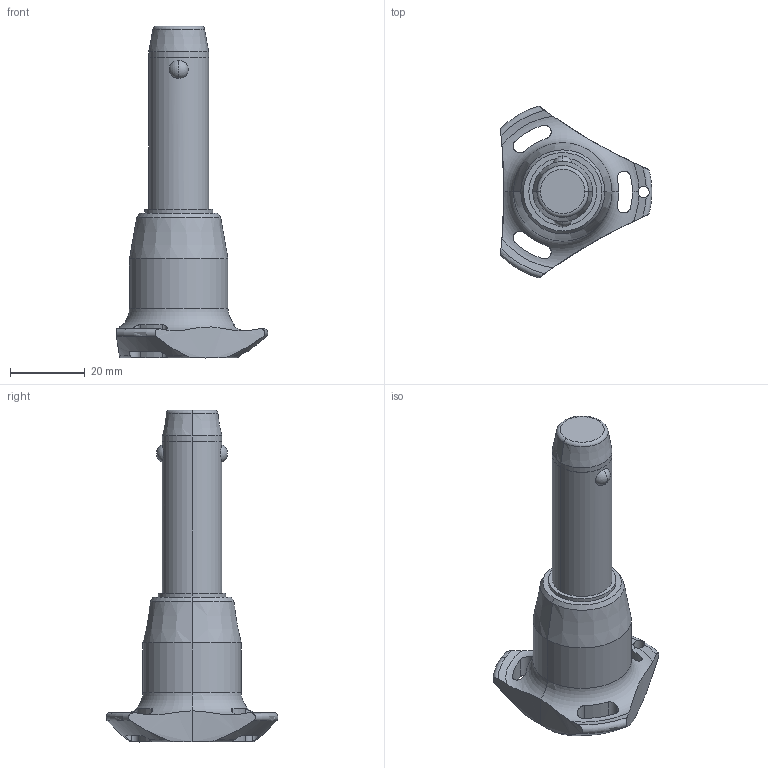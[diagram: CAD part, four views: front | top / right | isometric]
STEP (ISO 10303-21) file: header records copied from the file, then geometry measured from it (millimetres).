
FILE_DESCRIPTION (( 'STEP AP203' ), '1' );
FILE_NAME ('QR1736.M16-035-T.step', '2025-11-13T12:05:44', ( '' ), ( '' ), 'SwSTEP 2.0', 'SolidWorks 2019', '' );
FILE_SCHEMA (( 'CONFIG_CONTROL_DESIGN' ));
Length unit declared in the file: millimetre
Products named in the file (1): QR1736.M16-035-T
Bounding box: 40.5 x 45.88 x 88.7 mm (x, y, z)
Volume: 32133.1 mm3; surface area: 8418.2 mm2
Topology: 1 solids, 1 shells, 68 faces, 184 edges, 117 vertices
Faces by surface type: cylinder 32, cone 14, torus 11, sphere 6, plane 5
Entity records: 2950 total; most frequent: CARTESIAN_POINT 1194, ORIENTED_EDGE 368, DIRECTION 345, EDGE_CURVE 184, AXIS2_PLACEMENT_3D 154, VERTEX_POINT 117, CIRCLE 85, EDGE_LOOP 75
